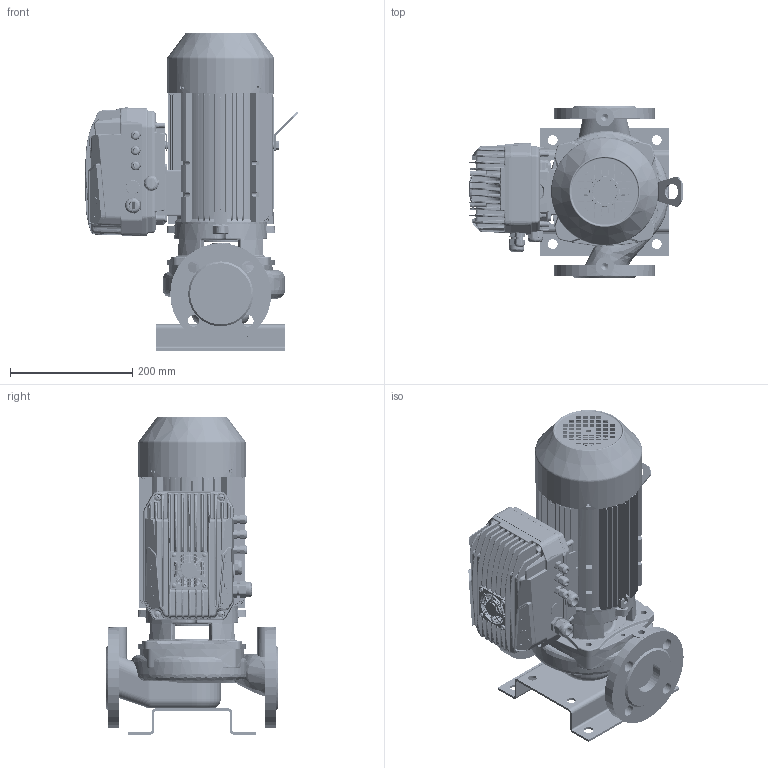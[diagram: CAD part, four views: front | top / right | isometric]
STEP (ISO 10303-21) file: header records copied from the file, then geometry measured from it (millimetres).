
FILE_DESCRIPTION(('STEP AP214'),'1');
FILE_NAME('export.stp','2022-09-07T06:29:54',(' '),(' '),'Spatial InterOp 3D',' ',' ');
FILE_SCHEMA(('AUTOMOTIVE_DESIGN { 1 0 10303 214 1 1 1 1 }'));
Length unit declared in the file: millimetre
Products named in the file (52): W_L50D2MDKP90; V_TLL50ABC; V_PPL50ABC; V_JALKA35973; V_AdapMida205_407; 210588; DIN_7985-M5X8; M5x8_DIN; 160141; M5x12_DIN; DIN_7985-M5X12; 160137; 160138; 160139; 160140; Koura_Ale_M5; Plug_Blind_M20; Sealing_Plug_M20; V_MKP90-1-F16; 160033; 160008; 160048___; 160068___; 160135; 160134; DIN_EN_24017_-_M8_16-Stainless_S; MIDA_180deg; BASE_MIDA_NASTEC_89; 3005020100_AF0_157; PRT0001; PRT0002; PRT0003; PRT0005; PRT0006; PRT0007; V4-25--_-_U7687_PZ_AF0_5; V4-25--_-_U7687_PZ_AF1_5; V4-25--_-_U7687_PZ_AF2_5; V4-25--_-_U7687_PZ_AF3_5; V5-30--_-_U7687_PZ_AF0_5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
Assembly tree (57 placements, depth 5):
  W_L50D2MDKP90
    V_TLL50ABC
    V_PPL50ABC
    V_JALKA35973
    V_AdapMida205_407
      210588
      DIN_7985-M5X8  x2
    V_MKP90-1-F16
      160141
        M5x8_DIN
          DIN_7985-M5X8
        M5x12_DIN
          DIN_7985-M5X12
        M5x12_DIN
          DIN_7985-M5X12
        M5x12_DIN
          DIN_7985-M5X12
        M5x12_DIN
          DIN_7985-M5X12
        160137
        160138
        160139
        160140
        Koura_Ale_M5
        Plug_Blind_M20
        Sealing_Plug_M20
      160033
        160008
      160048___
      160068___
      160135
      160134  x2
      DIN_EN_24017_-_M8_16-Stainless_S  x2
    Mida205
      MIDA_180deg
        BASE_MIDA_NASTEC_89
        3005020100_AF0_157
        PRT0001
        PRT0002
        PRT0003
        PRT0005
        PRT0006
        PRT0007
        V4-25--_-_U7687_PZ_AF0_5
        V4-25--_-_U7687_PZ_AF1_5
        V4-25--_-_U7687_PZ_AF2_5
        V4-25--_-_U7687_PZ_AF3_5
        V5-30--_-_U7687_PZ_AF0_5
        V5-30--_-_U7687_PZ_AF1_5
        V5-30--_-_U7687_PZ_AF2_5
        V5-30--_-_U7687_PZ_5
        2001300200_32
        TASTIERA_MIDA_2_44
        ETICHETTA_MIDA_9
        TAPPO_PRESSACAVO_M20_5
Bounding box: 348.12 x 280 x 518.85 mm (x, y, z)
Volume: 4799719.4 mm3; surface area: 1742286.9 mm2
Topology: 46 solids, 47 shells, 6408 faces, 16594 edges, 10290 vertices
Faces by surface type: plane 2304, cylinder 1957, bspline 1389, cone 424, torus 314, sphere 20
Entity records: 321242 total; most frequent: CARTESIAN_POINT 149649, ORIENTED_EDGE 32310, DIRECTION 23541, EDGE_CURVE 16159, VERTEX_POINT 10081, AXIS2_PLACEMENT_3D 8605, EDGE_LOOP 6789, LINE 6331
